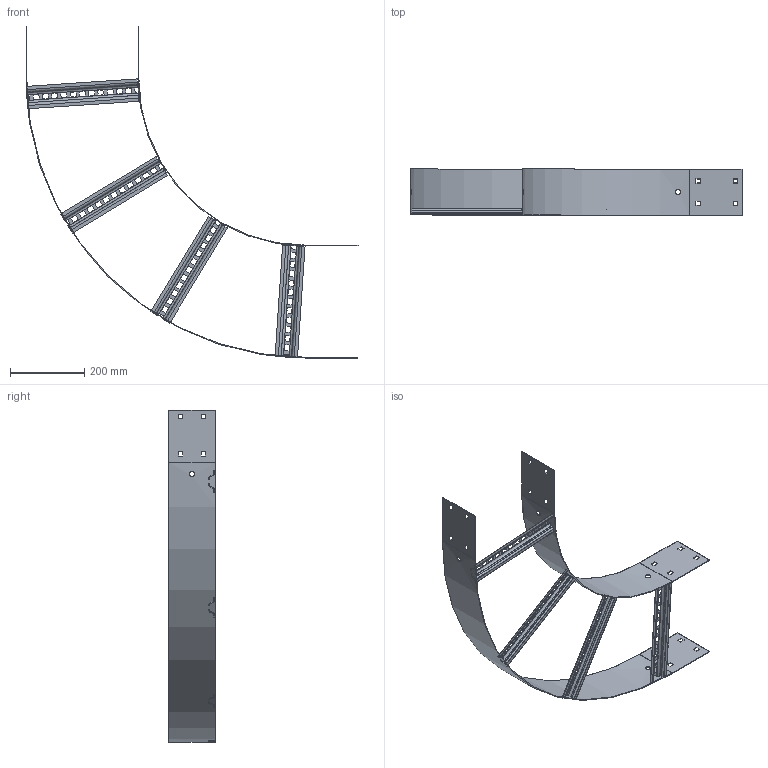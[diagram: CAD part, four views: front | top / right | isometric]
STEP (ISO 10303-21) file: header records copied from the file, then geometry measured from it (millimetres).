
FILE_DESCRIPTION (( 'STEP AP203' ), '1' );
FILE_NAME ('N3 B 3004.STEP', '2021-06-10T21:06:15', ( '' ), ( '' ), 'SwSTEP 2.0', 'SolidWorks 2020', '' );
FILE_SCHEMA (( 'CONFIG_CONTROL_DESIGN' ));
Length unit declared in the file: millimetre
Products named in the file (4): N3 RADIUS PLATE_N1-750; N3 RADIUS PLATE_N1-450 IR; N3 B 3004; Ladder Rung_Ladder Rung -  300mm
Assembly tree (6 placements, depth 2):
  N3 B 3004
    N3 RADIUS PLATE_N1-450 IR
    N3 RADIUS PLATE_N1-750
    Ladder Rung_Ladder Rung -  300mm  x4
Bounding box: 894.5 x 124 x 894.5 mm (x, y, z)
Volume: 731045.6 mm3; surface area: 784840.7 mm2
Topology: 6 solids, 6 shells, 460 faces, 1200 edges, 752 vertices
Faces by surface type: plane 416, cylinder 44
Entity records: 7014 total; most frequent: CARTESIAN_POINT 1707, ORIENTED_EDGE 1008, DIRECTION 910, EDGE_CURVE 504, VECTOR 464, LINE 464, VERTEX_POINT 320, EDGE_LOOP 252
